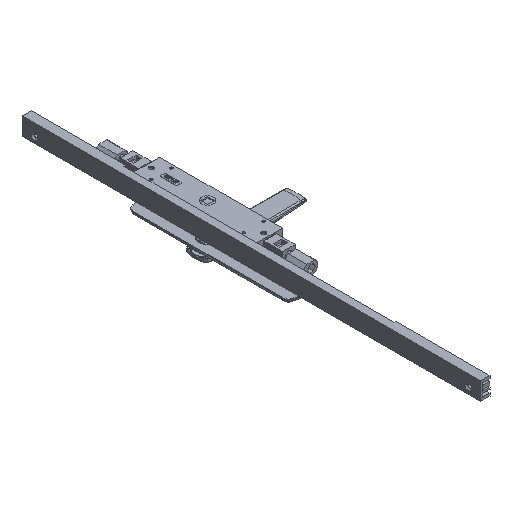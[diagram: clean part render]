
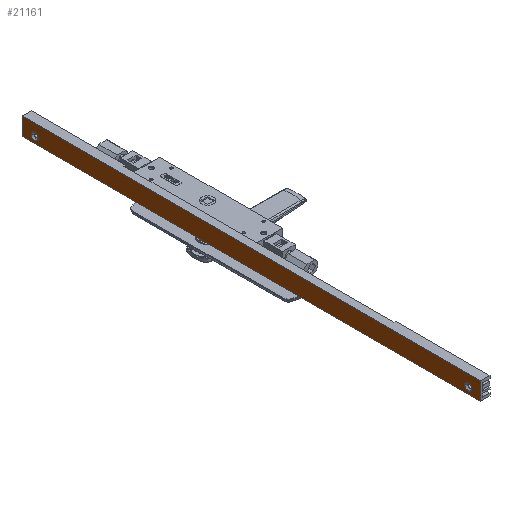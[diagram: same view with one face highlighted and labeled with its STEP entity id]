
A CAD part, isometric view. The second image highlights one B-rep face of the part: STEP entity #21161.
In plain terms, the highlighted planar face has unit normal (-1, 0, 0) as drawn and (0, 1, 0) by its records, which use the part's own axes.
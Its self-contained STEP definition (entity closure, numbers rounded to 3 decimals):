
#425 = EDGE_CURVE ( 'NONE', #14088, #23300, #16466, .T. ) ;
#452 = CIRCLE ( 'NONE', #15877, 4.216 ) ;
#491 = CARTESIAN_POINT ( 'NONE',  ( 11.8, 12.4, 19.216 ) ) ;
#739 = ORIENTED_EDGE ( 'NONE', *, *, #21347, .F. ) ;
#850 = VECTOR ( 'NONE', #11557, 1000. ) ;
#880 = ORIENTED_EDGE ( 'NONE', *, *, #5316, .F. ) ;
#1437 = DIRECTION ( 'NONE',  ( -1., 0., 0. ) ) ;
#1713 = CARTESIAN_POINT ( 'NONE',  ( 19.3, 12.4, 544. ) ) ;
#2298 = EDGE_LOOP ( 'NONE', ( #18207, #880 ) ) ;
#2673 = CIRCLE ( 'NONE', #5085, 4.216 ) ;
#2918 = VECTOR ( 'NONE', #1437, 1000. ) ;
#3050 = AXIS2_PLACEMENT_3D ( 'NONE', #21759, #24122, #16765 ) ;
#3087 = AXIS2_PLACEMENT_3D ( 'NONE', #13136, #22165, #29767 ) ;
#3552 = CIRCLE ( 'NONE', #3087, 4.216 ) ;
#4524 = LINE ( 'NONE', #18535, #2918 ) ;
#5085 = AXIS2_PLACEMENT_3D ( 'NONE', #21246, #19219, #5371 ) ;
#5088 = ORIENTED_EDGE ( 'NONE', *, *, #425, .F. ) ;
#5178 = EDGE_CURVE ( 'NONE', #17748, #30066, #28550, .T. ) ;
#5316 = EDGE_CURVE ( 'NONE', #30453, #9245, #3552, .T. ) ;
#5371 = DIRECTION ( 'NONE',  ( 0., 0., 1. ) ) ;
#6017 = FACE_BOUND ( 'NONE', #7633, .T. ) ;
#7079 = ORIENTED_EDGE ( 'NONE', *, *, #15423, .F. ) ;
#7355 = ORIENTED_EDGE ( 'NONE', *, *, #5178, .T. ) ;
#7633 = EDGE_LOOP ( 'NONE', ( #5088, #739 ) ) ;
#7688 = DIRECTION ( 'NONE',  ( 0., 0., -1. ) ) ;
#8215 = CARTESIAN_POINT ( 'NONE',  ( 20.8, 12.4, 0. ) ) ;
#9245 = VERTEX_POINT ( 'NONE', #491 ) ;
#10241 = CARTESIAN_POINT ( 'NONE',  ( 19.3, 12.4, 0. ) ) ;
#11557 = DIRECTION ( 'NONE',  ( 0., 0., -1. ) ) ;
#11708 = LINE ( 'NONE', #23401, #850 ) ;
#11916 = DIRECTION ( 'NONE',  ( 0., -1., 0. ) ) ;
#12884 = DIRECTION ( 'NONE',  ( 0., 0., 1. ) ) ;
#13136 = CARTESIAN_POINT ( 'NONE',  ( 11.8, 12.4, 15. ) ) ;
#14088 = VERTEX_POINT ( 'NONE', #16113 ) ;
#14475 = ORIENTED_EDGE ( 'NONE', *, *, #24617, .T. ) ;
#14571 = EDGE_CURVE ( 'NONE', #21813, #27280, #11708, .T. ) ;
#15423 = EDGE_CURVE ( 'NONE', #17748, #21813, #4524, .T. ) ;
#15473 = ORIENTED_EDGE ( 'NONE', *, *, #14571, .F. ) ;
#15877 = AXIS2_PLACEMENT_3D ( 'NONE', #22535, #17830, #12884 ) ;
#16065 = CARTESIAN_POINT ( 'NONE',  ( -1.7, 12.4, 544. ) ) ;
#16113 = CARTESIAN_POINT ( 'NONE',  ( 11.8, 12.4, 533.216 ) ) ;
#16466 = CIRCLE ( 'NONE', #3050, 4.216 ) ;
#16693 = EDGE_LOOP ( 'NONE', ( #7079, #7355, #14475, #15473 ) ) ;
#16765 = DIRECTION ( 'NONE',  ( 0., 0., 1. ) ) ;
#17701 = DIRECTION ( 'NONE',  ( -1., 0., 0. ) ) ;
#17748 = VERTEX_POINT ( 'NONE', #1713 ) ;
#17830 = DIRECTION ( 'NONE',  ( 0., 1., 0. ) ) ;
#18207 = ORIENTED_EDGE ( 'NONE', *, *, #23110, .F. ) ;
#18535 = CARTESIAN_POINT ( 'NONE',  ( 20.8, 12.4, 544. ) ) ;
#19219 = DIRECTION ( 'NONE',  ( 0., 1., 0. ) ) ;
#21161 = ADVANCED_FACE ( 'NONE', ( #22536, #6017, #27510 ), #27348, .F. ) ;
#21246 = CARTESIAN_POINT ( 'NONE',  ( 11.8, 12.4, 529. ) ) ;
#21347 = EDGE_CURVE ( 'NONE', #23300, #14088, #2673, .T. ) ;
#21453 = CARTESIAN_POINT ( 'NONE',  ( -1.7, 12.4, 0. ) ) ;
#21527 = AXIS2_PLACEMENT_3D ( 'NONE', #25033, #11916, #30746 ) ;
#21759 = CARTESIAN_POINT ( 'NONE',  ( 11.8, 12.4, 529. ) ) ;
#21813 = VERTEX_POINT ( 'NONE', #16065 ) ;
#22165 = DIRECTION ( 'NONE',  ( 0., 1., 0. ) ) ;
#22201 = CARTESIAN_POINT ( 'NONE',  ( 11.8, 12.4, 10.784 ) ) ;
#22535 = CARTESIAN_POINT ( 'NONE',  ( 11.8, 12.4, 15. ) ) ;
#22536 = FACE_BOUND ( 'NONE', #2298, .T. ) ;
#23110 = EDGE_CURVE ( 'NONE', #9245, #30453, #452, .T. ) ;
#23300 = VERTEX_POINT ( 'NONE', #24286 ) ;
#23401 = CARTESIAN_POINT ( 'NONE',  ( -1.7, 12.4, 544. ) ) ;
#24122 = DIRECTION ( 'NONE',  ( 0., 1., 0. ) ) ;
#24286 = CARTESIAN_POINT ( 'NONE',  ( 11.8, 12.4, 524.784 ) ) ;
#24617 = EDGE_CURVE ( 'NONE', #30066, #27280, #30002, .T. ) ;
#25033 = CARTESIAN_POINT ( 'NONE',  ( 20.8, 12.4, 544. ) ) ;
#25854 = VECTOR ( 'NONE', #17701, 1000. ) ;
#27280 = VERTEX_POINT ( 'NONE', #21453 ) ;
#27348 = PLANE ( 'NONE',  #21527 ) ;
#27510 = FACE_OUTER_BOUND ( 'NONE', #16693, .T. ) ;
#28550 = LINE ( 'NONE', #29019, #28909 ) ;
#28909 = VECTOR ( 'NONE', #7688, 1000. ) ;
#29019 = CARTESIAN_POINT ( 'NONE',  ( 19.3, 12.4, 544. ) ) ;
#29767 = DIRECTION ( 'NONE',  ( 0., 0., 1. ) ) ;
#30002 = LINE ( 'NONE', #8215, #25854 ) ;
#30066 = VERTEX_POINT ( 'NONE', #10241 ) ;
#30453 = VERTEX_POINT ( 'NONE', #22201 ) ;
#30746 = DIRECTION ( 'NONE',  ( 1., 0., 0. ) ) ;
